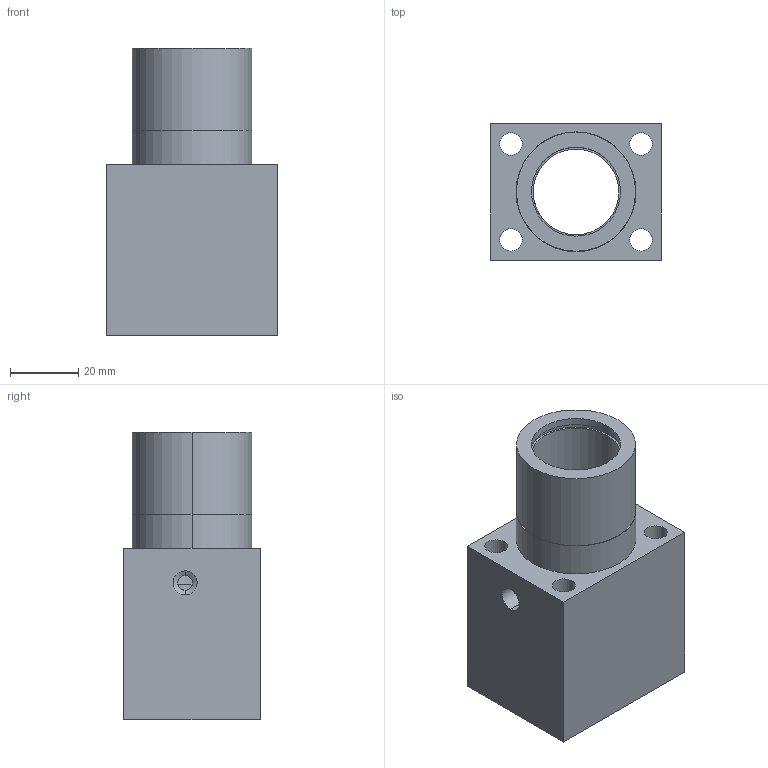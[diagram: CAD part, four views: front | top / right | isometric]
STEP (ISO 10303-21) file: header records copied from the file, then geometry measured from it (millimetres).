
FILE_DESCRIPTION (( 'STEP AP203' ), '1' );
FILE_NAME ('KTFG83-16.SLDPRT.step', '2020-06-15T05:53:18', ( '' ), ( '' ), 'SwSTEP 2.0', 'SolidWorks 2019', '' );
FILE_SCHEMA (( 'CONFIG_CONTROL_DESIGN' ));
Length unit declared in the file: millimetre
Products named in the file (2): KTFG83-16.SLDPRT
Bounding box: 50 x 40 x 84 mm (x, y, z)
Volume: 80519.8 mm3; surface area: 26919.8 mm2
Topology: 1 solids, 1 shells, 62 faces, 142 edges, 88 vertices
Faces by surface type: cylinder 38, plane 14, cone 10
Entity records: 1983 total; most frequent: CARTESIAN_POINT 350, DIRECTION 338, ORIENTED_EDGE 284, EDGE_CURVE 142, AXIS2_PLACEMENT_3D 138, VERTEX_POINT 88, EDGE_LOOP 80, CIRCLE 74
